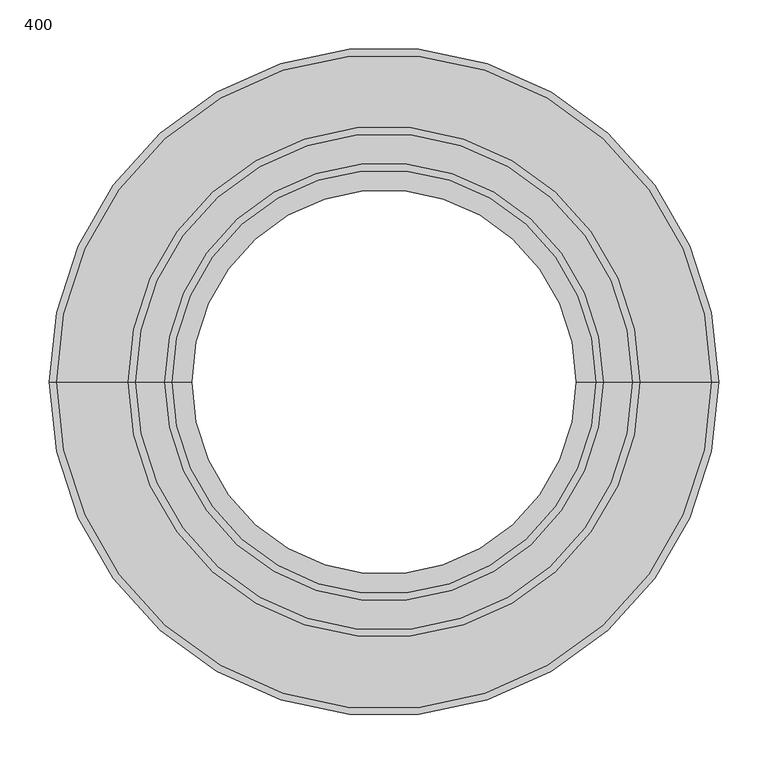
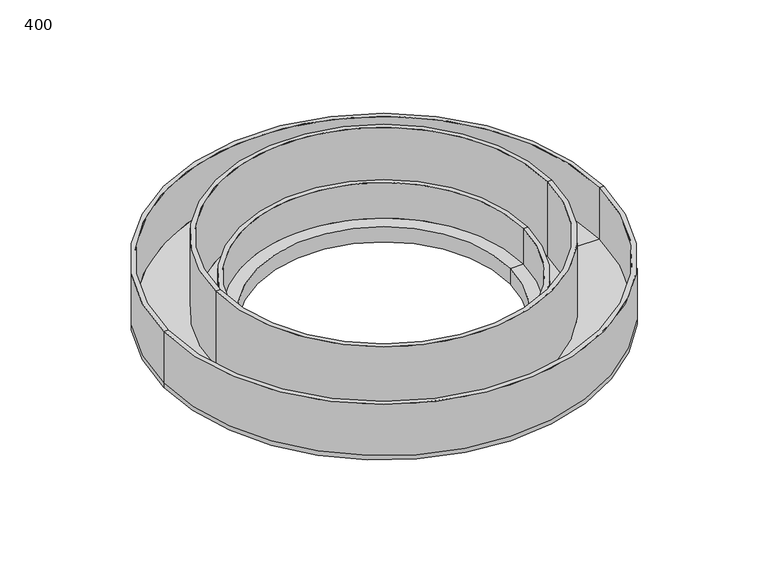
"""IFC4 building model written with IfcOpenShell, lengths in millimetres: pipe fitting geometry, Pipelife - Stormbox II - Adaptor : 400."""

from ifc_helpers import new_model, si_unit, frame, origin, origin_with_axes, place, context, project, spatial, polyline, circle_curve, source, transform, mapped, element, save
from ifc_brep_helpers import plane_surface, cylinder_surface, revolved_surface, advanced_brep


def pipe_fitting_400_9a6168bf(model_context):
    return source(origin(), model_context, "Body", "AdvancedBrep", [
        advanced_brep(
        [(-339.0, 0.0, 7.0), (339.0, 0.0, 7.0), (339.0, 0.0, 0.0), (-339.0, 0.0, 0.0), (202.0, 0.0, 0.0), (-202.0, 0.0, 0.0), (202.0, 0.0, -18.0), (-202.0, 0.0, -18.0), (195.0, 0.0, -18.0), (-195.0, 0.0, -18.0), (195.0, 0.0, 7.0), (-195.0, 0.0, 7.0), (215.0, 0.0, 7.0), (-215.0, 0.0, 7.0), (215.0, 0.0, 65.0), (-215.0, 0.0, 65.0), (222.0, 0.0, 65.0), (-222.0, 0.0, 65.0), (222.0, 0.0, 7.0), (-222.0, 0.0, 7.0), (252.0, 0.0, 7.0), (-252.0, 0.0, 7.0), (252.0, 0.0, 129.0), (-252.0, 0.0, 129.0), (259.0, 0.0, 129.0), (-259.0, 0.0, 129.0), (259.0, 0.0, 7.0), (-259.0, 0.0, 7.0), (332.0, 0.0, 7.0), (-332.0, 0.0, 7.0), (332.0, 0.0, 91.0), (-332.0, 0.0, 91.0), (339.0, 0.0, 91.0), (-339.0, 0.0, 91.0)],
        [
            (0, 1, circle_curve(frame((0.0, 0.0, 7.0), z_axis=(0.0, 0.0, -1.0), x_axis=(1.0, 0.0, 0.0)), 339.0)),
            (1, 2),
            (2, 3, circle_curve(origin_with_axes(), 339.0)),
            (3, 0),
            (1, 0, circle_curve(frame((0.0, 0.0, 7.0), z_axis=(0.0, 0.0, -1.0), x_axis=(1.0, 0.0, 0.0)), 339.0)),
            (3, 2, circle_curve(origin_with_axes(), 339.0)),
            (2, 4),
            (4, 5, circle_curve(origin_with_axes(), 202.0)),
            (5, 3),
            (5, 4, circle_curve(origin_with_axes(), 202.0)),
            (4, 6),
            (6, 7, circle_curve(frame((0.0, 0.0, -18.0), z_axis=(0.0, 0.0, 1.0), x_axis=(1.0, 0.0, 0.0)), 202.0)),
            (7, 5),
            (7, 6, circle_curve(frame((0.0, 0.0, -18.0), z_axis=(0.0, 0.0, 1.0), x_axis=(1.0, 0.0, 0.0)), 202.0)),
            (6, 8),
            (8, 9, circle_curve(frame((0.0, 0.0, -18.0), z_axis=(0.0, 0.0, 1.0), x_axis=(1.0, 0.0, 0.0)), 195.0)),
            (9, 7),
            (9, 8, circle_curve(frame((0.0, 0.0, -18.0), z_axis=(0.0, 0.0, 1.0), x_axis=(1.0, 0.0, 0.0)), 195.0)),
            (8, 10),
            (10, 11, circle_curve(frame((0.0, 0.0, 7.0), z_axis=(0.0, 0.0, 1.0), x_axis=(1.0, 0.0, 0.0)), 195.0)),
            (11, 9),
            (11, 10, circle_curve(frame((0.0, 0.0, 7.0), z_axis=(0.0, 0.0, 1.0), x_axis=(1.0, 0.0, 0.0)), 195.0)),
            (10, 12),
            (12, 13, circle_curve(frame((0.0, 0.0, 7.0), z_axis=(0.0, 0.0, 1.0), x_axis=(1.0, 0.0, 0.0)), 215.0)),
            (13, 11),
            (13, 12, circle_curve(frame((0.0, 0.0, 7.0), z_axis=(0.0, 0.0, 1.0), x_axis=(1.0, 0.0, 0.0)), 215.0)),
            (12, 14),
            (14, 15, circle_curve(frame((0.0, 0.0, 65.0), z_axis=(0.0, 0.0, 1.0), x_axis=(1.0, 0.0, 0.0)), 215.0)),
            (15, 13),
            (15, 14, circle_curve(frame((0.0, 0.0, 65.0), z_axis=(0.0, 0.0, 1.0), x_axis=(1.0, 0.0, 0.0)), 215.0)),
            (14, 16),
            (16, 17, circle_curve(frame((0.0, 0.0, 65.0), z_axis=(0.0, 0.0, 1.0), x_axis=(1.0, 0.0, 0.0)), 222.0)),
            (17, 15),
            (17, 16, circle_curve(frame((0.0, 0.0, 65.0), z_axis=(0.0, 0.0, 1.0), x_axis=(1.0, 0.0, 0.0)), 222.0)),
            (16, 18),
            (18, 19, circle_curve(frame((0.0, 0.0, 7.0), z_axis=(0.0, 0.0, 1.0), x_axis=(1.0, 0.0, 0.0)), 222.0)),
            (19, 17),
            (19, 18, circle_curve(frame((0.0, 0.0, 7.0), z_axis=(0.0, 0.0, 1.0), x_axis=(1.0, 0.0, 0.0)), 222.0)),
            (18, 20),
            (20, 21, circle_curve(frame((0.0, 0.0, 7.0), z_axis=(0.0, 0.0, 1.0), x_axis=(1.0, 0.0, 0.0)), 252.0)),
            (21, 19),
            (21, 20, circle_curve(frame((0.0, 0.0, 7.0), z_axis=(0.0, 0.0, 1.0), x_axis=(1.0, 0.0, 0.0)), 252.0)),
            (20, 22),
            (22, 23, circle_curve(frame((0.0, 0.0, 129.0), z_axis=(0.0, 0.0, 1.0), x_axis=(1.0, 0.0, 0.0)), 252.0)),
            (23, 21),
            (23, 22, circle_curve(frame((0.0, 0.0, 129.0), z_axis=(0.0, 0.0, 1.0), x_axis=(1.0, 0.0, 0.0)), 252.0)),
            (22, 24),
            (24, 25, circle_curve(frame((0.0, 0.0, 129.0), z_axis=(0.0, 0.0, 1.0), x_axis=(1.0, 0.0, 0.0)), 259.0)),
            (25, 23),
            (25, 24, circle_curve(frame((0.0, 0.0, 129.0), z_axis=(0.0, 0.0, 1.0), x_axis=(1.0, 0.0, 0.0)), 259.0)),
            (24, 26),
            (26, 27, circle_curve(frame((0.0, 0.0, 7.0), z_axis=(0.0, 0.0, 1.0), x_axis=(1.0, 0.0, 0.0)), 259.0)),
            (27, 25),
            (27, 26, circle_curve(frame((0.0, 0.0, 7.0), z_axis=(0.0, 0.0, 1.0), x_axis=(1.0, 0.0, 0.0)), 259.0)),
            (26, 28),
            (28, 29, circle_curve(frame((0.0, 0.0, 7.0), z_axis=(0.0, 0.0, 1.0), x_axis=(1.0, 0.0, 0.0)), 332.0)),
            (29, 27),
            (29, 28, circle_curve(frame((0.0, 0.0, 7.0), z_axis=(0.0, 0.0, 1.0), x_axis=(1.0, 0.0, 0.0)), 332.0)),
            (28, 30),
            (30, 31, circle_curve(frame((0.0, 0.0, 91.0), z_axis=(0.0, 0.0, 1.0), x_axis=(1.0, 0.0, 0.0)), 332.0)),
            (31, 29),
            (31, 30, circle_curve(frame((0.0, 0.0, 91.0), z_axis=(0.0, 0.0, 1.0), x_axis=(1.0, 0.0, 0.0)), 332.0)),
            (30, 32),
            (32, 33, circle_curve(frame((0.0, 0.0, 91.0), z_axis=(0.0, 0.0, 1.0), x_axis=(1.0, 0.0, 0.0)), 339.0)),
            (33, 31),
            (33, 32, circle_curve(frame((0.0, 0.0, 91.0), z_axis=(0.0, 0.0, 1.0), x_axis=(1.0, 0.0, 0.0)), 339.0)),
            (32, 1),
            (0, 33),
        ],
        [
            cylinder_surface(frame((0.0, 0.0, 7.0), z_axis=(0.0, 0.0, 1.0), x_axis=(1.0, 0.0, 0.0)), 339.0),
            plane_surface(frame((0.0, 0.0, 0.0), z_axis=(0.0, 0.0, -1.0), x_axis=(1.0, 0.0, 0.0))),
            cylinder_surface(frame((0.0, 0.0, 7.0), z_axis=(0.0, 0.0, 1.0), x_axis=(1.0, 0.0, 0.0)), 202.0),
            plane_surface(frame((0.0, 0.0, -18.0), z_axis=(0.0, 0.0, -1.0), x_axis=(1.0, 0.0, 0.0))),
            revolved_surface(polyline([(195.0, 0.0, 7.0), (195.0, 0.0, -18.0)]), (0.0, 0.0, 7.0), (0.0, 0.0, 1.0)),
            plane_surface(frame((0.0, 0.0, 7.0), z_axis=(0.0, 0.0, 1.0), x_axis=(1.0, 0.0, 0.0))),
            revolved_surface(polyline([(215.0, 0.0, 65.0), (215.0, 0.0, 7.0)]), (0.0, 0.0, 7.0), (0.0, 0.0, 1.0)),
            plane_surface(frame((0.0, 0.0, 65.0), z_axis=(0.0, 0.0, 1.0), x_axis=(1.0, 0.0, 0.0))),
            cylinder_surface(frame((0.0, 0.0, 7.0), z_axis=(0.0, 0.0, 1.0), x_axis=(1.0, 0.0, 0.0)), 222.0),
            revolved_surface(polyline([(252.0, 0.0, 129.0), (252.0, 0.0, 7.0)]), (0.0, 0.0, 7.0), (0.0, 0.0, 1.0)),
            plane_surface(frame((0.0, 0.0, 129.0), z_axis=(0.0, 0.0, 1.0), x_axis=(1.0, 0.0, 0.0))),
            cylinder_surface(frame((0.0, 0.0, 7.0), z_axis=(0.0, 0.0, 1.0), x_axis=(1.0, 0.0, 0.0)), 259.0),
            revolved_surface(polyline([(332.0, 0.0, 91.0), (332.0, 0.0, 7.0)]), (0.0, 0.0, 7.0), (0.0, 0.0, 1.0)),
            plane_surface(frame((0.0, 0.0, 91.0), z_axis=(0.0, 0.0, 1.0), x_axis=(1.0, 0.0, 0.0))),
        ],
        [
            (0, [[1, 2, 3, 4]]),
            (0, [[5, -4, 6, -2]]),
            (1, [[-3, 7, 8, 9]]),
            (1, [[-6, -9, 10, -7]]),
            (2, [[-8, 11, 12, 13]]),
            (2, [[-10, -13, 14, -11]]),
            (3, [[-12, 15, 16, 17]]),
            (3, [[-14, -17, 18, -15]]),
            (4, [[-16, 19, 20, 21]]),
            (4, [[-18, -21, 22, -19]]),
            (5, [[-20, 23, 24, 25]]),
            (5, [[-22, -25, 26, -23]]),
            (6, [[-24, 27, 28, 29]]),
            (6, [[-26, -29, 30, -27]]),
            (7, [[-28, 31, 32, 33]]),
            (7, [[-30, -33, 34, -31]]),
            (8, [[-32, 35, 36, 37]]),
            (8, [[-34, -37, 38, -35]]),
            (5, [[-36, 39, 40, 41]]),
            (5, [[-38, -41, 42, -39]]),
            (9, [[-40, 43, 44, 45]]),
            (9, [[-42, -45, 46, -43]]),
            (10, [[-44, 47, 48, 49]]),
            (10, [[-46, -49, 50, -47]]),
            (11, [[-48, 51, 52, 53]]),
            (11, [[-50, -53, 54, -51]]),
            (5, [[-52, 55, 56, 57]]),
            (5, [[-54, -57, 58, -55]]),
            (12, [[-56, 59, 60, 61]]),
            (12, [[-58, -61, 62, -59]]),
            (13, [[-60, 63, 64, 65]]),
            (13, [[-62, -65, 66, -63]]),
            (0, [[-64, 67, -1, 68]]),
            (0, [[-66, -68, -5, -67]]),
        ],
    ),
    ])


if __name__ == "__main__":
    model = new_model("IFC4")
    model_context = context("Model", 3, world=origin())
    ifc_project = project(units=[si_unit("LENGTHUNIT", "METRE", prefix="MILLI")], contexts=[model_context])
    site = spatial("IfcSite", under=ifc_project)
    building = spatial("IfcBuilding", under=site)
    placement = place(None, origin())
    pipe_fitting_400_shape = pipe_fitting_400_9a6168bf(model_context)
    element("IfcPipeFitting", 1, ObjectType="Pipelife - Stormbox II - Adaptor : 400", at=placement, inside=building, context=model_context, shape_type="MappedRepresentation", body=[
        mapped(pipe_fitting_400_shape, transform((0.0, 0.0, 0.0), x_axis=(1.0, 0.0, 0.0), y_axis=(0.0, 1.0, 0.0), z_axis=(0.0, 0.0, 1.0))),
    ])
    save(model, "model.ifc")
